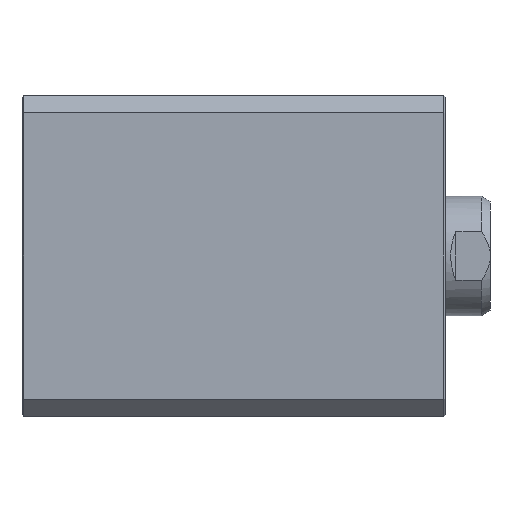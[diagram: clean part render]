
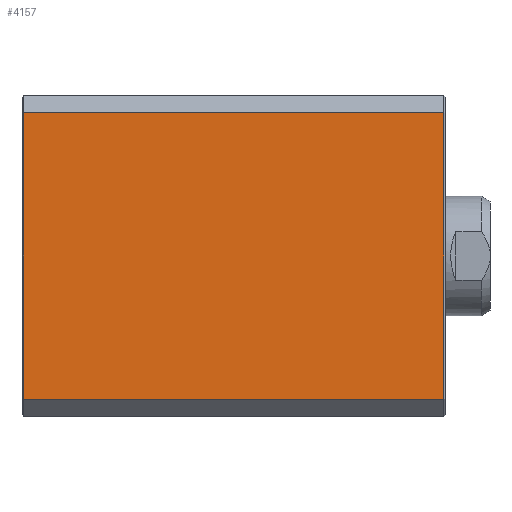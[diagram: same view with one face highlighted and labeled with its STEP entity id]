
A CAD part, left-side view. The second image highlights one B-rep face of the part: STEP entity #4157.
In plain terms, the highlighted planar face has unit normal (-1, 0, 0).
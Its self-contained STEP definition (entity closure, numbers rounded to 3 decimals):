
#151=LINE('',#5836,#445);
#153=LINE('',#5840,#447);
#154=LINE('',#5842,#448);
#155=LINE('',#5844,#449);
#445=VECTOR('',#4779,1000.);
#447=VECTOR('',#4783,1000.);
#448=VECTOR('',#4784,1000.);
#449=VECTOR('',#4785,1000.);
#709=PLANE('',#4383);
#1050=ORIENTED_EDGE('',*,*,#1737,.F.);
#1051=ORIENTED_EDGE('',*,*,#1739,.T.);
#1052=ORIENTED_EDGE('',*,*,#1740,.T.);
#1053=ORIENTED_EDGE('',*,*,#1741,.T.);
#1737=EDGE_CURVE('',#2089,#2090,#151,.T.);
#1739=EDGE_CURVE('',#2089,#2091,#153,.T.);
#1740=EDGE_CURVE('',#2091,#2092,#154,.T.);
#1741=EDGE_CURVE('',#2092,#2090,#155,.T.);
#2089=VERTEX_POINT('',#5835);
#2090=VERTEX_POINT('',#5837);
#2091=VERTEX_POINT('',#5841);
#2092=VERTEX_POINT('',#5843);
#2377=EDGE_LOOP('',(#1050,#1051,#1052,#1053));
#2615=FACE_BOUND('',#2377,.T.);
#4157=ADVANCED_FACE('',(#2615),#709,.T.);
#4383=AXIS2_PLACEMENT_3D('',#5839,#4781,#4782);
#4779=DIRECTION('',(0.,-1.,0.));
#4781=DIRECTION('',(-1.,0.,0.));
#4782=DIRECTION('',(0.,-1.,0.));
#4783=DIRECTION('',(0.,0.,-1.));
#4784=DIRECTION('',(0.,-1.,0.));
#4785=DIRECTION('',(0.,0.,1.));
#5835=CARTESIAN_POINT('',(-47.,123.5,42.));
#5836=CARTESIAN_POINT('',(-47.,94.,42.));
#5837=CARTESIAN_POINT('',(-47.,0.5,42.));
#5839=CARTESIAN_POINT('',(-47.,94.,42.));
#5840=CARTESIAN_POINT('',(-47.,123.5,42.));
#5841=CARTESIAN_POINT('',(-47.,123.5,-42.));
#5842=CARTESIAN_POINT('',(-47.,94.,-42.));
#5843=CARTESIAN_POINT('',(-47.,0.5,-42.));
#5844=CARTESIAN_POINT('',(-47.,0.5,42.));
